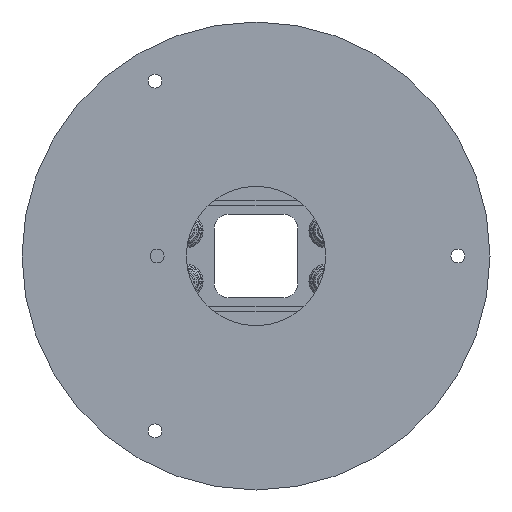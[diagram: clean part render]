
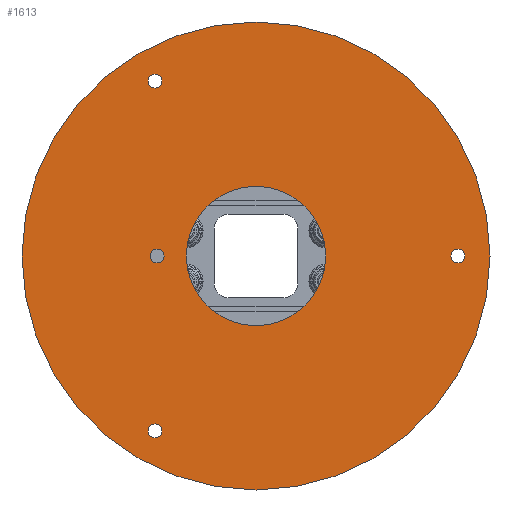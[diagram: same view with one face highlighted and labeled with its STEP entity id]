
A CAD part, front view. The second image highlights one B-rep face of the part: STEP entity #1613.
In plain terms, the highlighted planar face has unit normal (0, -1, 0).
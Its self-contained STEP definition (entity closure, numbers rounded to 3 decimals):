
#8 = DIRECTION ( 'NONE',  ( 0., 0., 1. ) ) ;
#29 = CARTESIAN_POINT ( 'NONE',  ( 0., 0., 33. ) ) ;
#55 = CARTESIAN_POINT ( 'NONE',  ( 62.787, 0., 38.75 ) ) ;
#85 = DIRECTION ( 'NONE',  ( 0., 1., 0. ) ) ;
#166 = CARTESIAN_POINT ( 'NONE',  ( 0., 0., 84. ) ) ;
#220 = CARTESIAN_POINT ( 'NONE',  ( -62.787, 0., 38.75 ) ) ;
#371 = EDGE_CURVE ( 'NONE', #1781, #3850, #1570, .T. ) ;
#376 = EDGE_CURVE ( 'NONE', #3811, #1302, #3640, .T. ) ;
#420 = EDGE_CURVE ( 'NONE', #2489, #1654, #1917, .T. ) ;
#446 = EDGE_LOOP ( 'NONE', ( #876, #1342 ) ) ;
#504 = VERTEX_POINT ( 'NONE', #29 ) ;
#549 = CARTESIAN_POINT ( 'NONE',  ( 62.787, 0., 33.75 ) ) ;
#580 = CARTESIAN_POINT ( 'NONE',  ( 62.787, 0., 36.25 ) ) ;
#649 = CARTESIAN_POINT ( 'NONE',  ( -62.787, 0., 33.75 ) ) ;
#653 = DIRECTION ( 'NONE',  ( 0., 1., 0. ) ) ;
#659 = DIRECTION ( 'NONE',  ( 0., 1., 0. ) ) ;
#730 = CARTESIAN_POINT ( 'NONE',  ( 0., 0., -72.5 ) ) ;
#762 = VERTEX_POINT ( 'NONE', #649 ) ;
#790 = CIRCLE ( 'NONE', #1778, 2.5 ) ;
#876 = ORIENTED_EDGE ( 'NONE', *, *, #2179, .T. ) ;
#918 = DIRECTION ( 'NONE',  ( 0., 1., 0. ) ) ;
#931 = DIRECTION ( 'NONE',  ( 0., 0., 1. ) ) ;
#995 = CARTESIAN_POINT ( 'NONE',  ( 0., 0., 25. ) ) ;
#1005 = CARTESIAN_POINT ( 'NONE',  ( -62.787, 0., 36.25 ) ) ;
#1018 = ORIENTED_EDGE ( 'NONE', *, *, #3700, .T. ) ;
#1130 = CARTESIAN_POINT ( 'NONE',  ( 0., 0., -70. ) ) ;
#1134 = CARTESIAN_POINT ( 'NONE',  ( 0., 0., 0. ) ) ;
#1226 = FACE_BOUND ( 'NONE', #1886, .T. ) ;
#1270 = CIRCLE ( 'NONE', #3003, 2.5 ) ;
#1277 = PLANE ( 'NONE',  #2736 ) ;
#1286 = CARTESIAN_POINT ( 'NONE',  ( 0., 0., 38. ) ) ;
#1302 = VERTEX_POINT ( 'NONE', #995 ) ;
#1342 = ORIENTED_EDGE ( 'NONE', *, *, #2160, .T. ) ;
#1373 = DIRECTION ( 'NONE',  ( 0.866, 0., -0.5 ) ) ;
#1487 = AXIS2_PLACEMENT_3D ( 'NONE', #3132, #3030, #2688 ) ;
#1493 = AXIS2_PLACEMENT_3D ( 'NONE', #4215, #659, #1373 ) ;
#1570 = CIRCLE ( 'NONE', #4391, 2.5 ) ;
#1610 = CIRCLE ( 'NONE', #3181, 25. ) ;
#1613 = ADVANCED_FACE ( 'NONE', ( #3681, #3217, #1657, #2510, #4085, #1226 ), #1277, .F. ) ;
#1615 = ORIENTED_EDGE ( 'NONE', *, *, #3359, .T. ) ;
#1628 = DIRECTION ( 'NONE',  ( 0., 0., 1. ) ) ;
#1654 = VERTEX_POINT ( 'NONE', #166 ) ;
#1657 = FACE_BOUND ( 'NONE', #4660, .T. ) ;
#1707 = EDGE_CURVE ( 'NONE', #762, #4249, #3893, .T. ) ;
#1778 = AXIS2_PLACEMENT_3D ( 'NONE', #580, #4911, #3727 ) ;
#1781 = VERTEX_POINT ( 'NONE', #3778 ) ;
#1886 = EDGE_LOOP ( 'NONE', ( #4933, #3755 ) ) ;
#1892 = DIRECTION ( 'NONE',  ( 0., 1., 0. ) ) ;
#1917 = CIRCLE ( 'NONE', #3798, 84. ) ;
#1936 = CIRCLE ( 'NONE', #5053, 2.5 ) ;
#2025 = DIRECTION ( 'NONE',  ( 0., 0., 1. ) ) ;
#2115 = VERTEX_POINT ( 'NONE', #55 ) ;
#2150 = DIRECTION ( 'NONE',  ( 0., 0., 1. ) ) ;
#2160 = EDGE_CURVE ( 'NONE', #504, #2312, #3816, .T. ) ;
#2179 = EDGE_CURVE ( 'NONE', #2312, #504, #3898, .T. ) ;
#2227 = DIRECTION ( 'NONE',  ( 0.866, 0., -0.5 ) ) ;
#2234 = EDGE_LOOP ( 'NONE', ( #3086, #3880 ) ) ;
#2264 = CIRCLE ( 'NONE', #4645, 2.5 ) ;
#2312 = VERTEX_POINT ( 'NONE', #1286 ) ;
#2313 = EDGE_LOOP ( 'NONE', ( #1615, #4476 ) ) ;
#2489 = VERTEX_POINT ( 'NONE', #4097 ) ;
#2510 = FACE_BOUND ( 'NONE', #2313, .T. ) ;
#2688 = DIRECTION ( 'NONE',  ( 0., 0., 1. ) ) ;
#2706 = CARTESIAN_POINT ( 'NONE',  ( 0., 0., -25. ) ) ;
#2736 = AXIS2_PLACEMENT_3D ( 'NONE', #3244, #4455, #4784 ) ;
#2738 = DIRECTION ( 'NONE',  ( 0., 0., 1. ) ) ;
#2838 = DIRECTION ( 'NONE',  ( 0., 1., 0. ) ) ;
#3003 = AXIS2_PLACEMENT_3D ( 'NONE', #1005, #653, #2227 ) ;
#3030 = DIRECTION ( 'NONE',  ( 0., 1., 0. ) ) ;
#3086 = ORIENTED_EDGE ( 'NONE', *, *, #4644, .T. ) ;
#3131 = DIRECTION ( 'NONE',  ( 0., 1., 0. ) ) ;
#3132 = CARTESIAN_POINT ( 'NONE',  ( 0., 0., 0. ) ) ;
#3161 = AXIS2_PLACEMENT_3D ( 'NONE', #3773, #4566, #931 ) ;
#3171 = EDGE_LOOP ( 'NONE', ( #4232, #4687 ) ) ;
#3181 = AXIS2_PLACEMENT_3D ( 'NONE', #3956, #4756, #2025 ) ;
#3217 = FACE_BOUND ( 'NONE', #2234, .T. ) ;
#3244 = CARTESIAN_POINT ( 'NONE',  ( 0., 0., 0. ) ) ;
#3289 = EDGE_CURVE ( 'NONE', #3382, #2115, #1936, .T. ) ;
#3359 = EDGE_CURVE ( 'NONE', #3850, #1781, #2264, .T. ) ;
#3382 = VERTEX_POINT ( 'NONE', #549 ) ;
#3600 = CARTESIAN_POINT ( 'NONE',  ( 0., 0., 35.5 ) ) ;
#3630 = CARTESIAN_POINT ( 'NONE',  ( 0., 0., 0. ) ) ;
#3640 = CIRCLE ( 'NONE', #1487, 25. ) ;
#3657 = DIRECTION ( 'NONE',  ( 0., 0., 1. ) ) ;
#3681 = FACE_BOUND ( 'NONE', #446, .T. ) ;
#3700 = EDGE_CURVE ( 'NONE', #4249, #762, #1270, .T. ) ;
#3727 = DIRECTION ( 'NONE',  ( -0.866, 0., -0.5 ) ) ;
#3755 = ORIENTED_EDGE ( 'NONE', *, *, #5040, .T. ) ;
#3773 = CARTESIAN_POINT ( 'NONE',  ( 0., 0., 35.5 ) ) ;
#3778 = CARTESIAN_POINT ( 'NONE',  ( 0., 0., -75. ) ) ;
#3798 = AXIS2_PLACEMENT_3D ( 'NONE', #1134, #3902, #2738 ) ;
#3811 = VERTEX_POINT ( 'NONE', #2706 ) ;
#3816 = CIRCLE ( 'NONE', #4879, 2.5 ) ;
#3850 = VERTEX_POINT ( 'NONE', #1130 ) ;
#3880 = ORIENTED_EDGE ( 'NONE', *, *, #3289, .T. ) ;
#3893 = CIRCLE ( 'NONE', #1493, 2.5 ) ;
#3898 = CIRCLE ( 'NONE', #3161, 2.5 ) ;
#3902 = DIRECTION ( 'NONE',  ( 0., 1., 0. ) ) ;
#3956 = CARTESIAN_POINT ( 'NONE',  ( 0., 0., 0. ) ) ;
#4002 = DIRECTION ( 'NONE',  ( -0.866, 0., -0.5 ) ) ;
#4077 = AXIS2_PLACEMENT_3D ( 'NONE', #3630, #918, #3657 ) ;
#4085 = FACE_OUTER_BOUND ( 'NONE', #3171, .T. ) ;
#4097 = CARTESIAN_POINT ( 'NONE',  ( 0., 0., -84. ) ) ;
#4157 = CIRCLE ( 'NONE', #4077, 84. ) ;
#4215 = CARTESIAN_POINT ( 'NONE',  ( -62.787, 0., 36.25 ) ) ;
#4232 = ORIENTED_EDGE ( 'NONE', *, *, #420, .F. ) ;
#4249 = VERTEX_POINT ( 'NONE', #220 ) ;
#4391 = AXIS2_PLACEMENT_3D ( 'NONE', #730, #1892, #8 ) ;
#4400 = EDGE_CURVE ( 'NONE', #1654, #2489, #4157, .T. ) ;
#4455 = DIRECTION ( 'NONE',  ( 0., 1., 0. ) ) ;
#4476 = ORIENTED_EDGE ( 'NONE', *, *, #371, .T. ) ;
#4566 = DIRECTION ( 'NONE',  ( 0., 1., 0. ) ) ;
#4644 = EDGE_CURVE ( 'NONE', #2115, #3382, #790, .T. ) ;
#4645 = AXIS2_PLACEMENT_3D ( 'NONE', #4899, #2838, #2150 ) ;
#4660 = EDGE_LOOP ( 'NONE', ( #1018, #4671 ) ) ;
#4671 = ORIENTED_EDGE ( 'NONE', *, *, #1707, .T. ) ;
#4687 = ORIENTED_EDGE ( 'NONE', *, *, #4400, .F. ) ;
#4722 = CARTESIAN_POINT ( 'NONE',  ( 62.787, 0., 36.25 ) ) ;
#4756 = DIRECTION ( 'NONE',  ( 0., 1., 0. ) ) ;
#4784 = DIRECTION ( 'NONE',  ( 0., 0., 1. ) ) ;
#4879 = AXIS2_PLACEMENT_3D ( 'NONE', #3600, #85, #1628 ) ;
#4899 = CARTESIAN_POINT ( 'NONE',  ( 0., 0., -72.5 ) ) ;
#4911 = DIRECTION ( 'NONE',  ( 0., 1., 0. ) ) ;
#4933 = ORIENTED_EDGE ( 'NONE', *, *, #376, .T. ) ;
#5040 = EDGE_CURVE ( 'NONE', #1302, #3811, #1610, .T. ) ;
#5053 = AXIS2_PLACEMENT_3D ( 'NONE', #4722, #3131, #4002 ) ;
